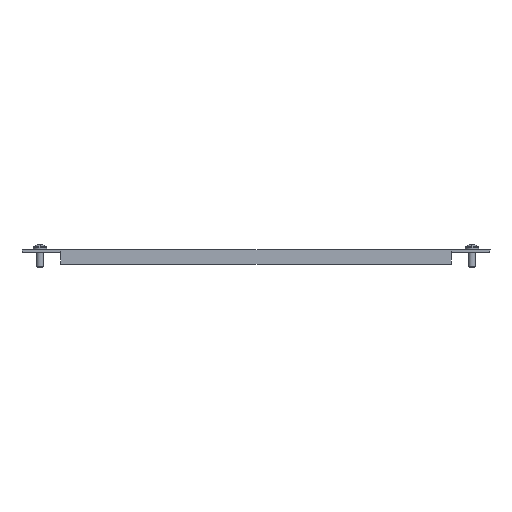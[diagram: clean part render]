
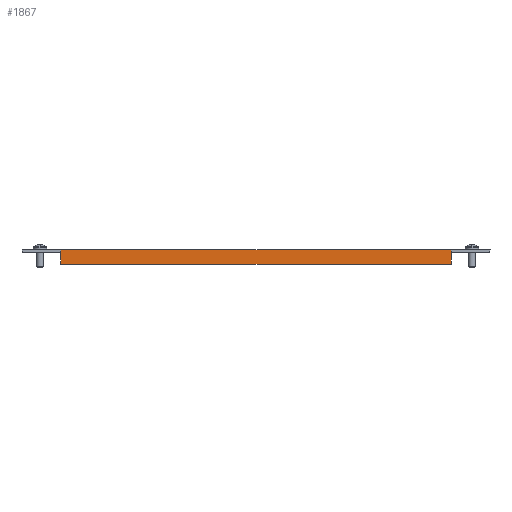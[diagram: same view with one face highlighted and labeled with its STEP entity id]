
A CAD part, front view. The second image highlights one B-rep face of the part: STEP entity #1867.
In plain terms, the highlighted planar face has unit normal (0, -1, 0).
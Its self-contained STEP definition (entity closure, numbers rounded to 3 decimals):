
#74 = EDGE_CURVE ( 'NONE', #1968, #316, #1714, .T. ) ;
#107 = DIRECTION ( 'NONE',  ( 0., 0., 1. ) ) ;
#146 = CARTESIAN_POINT ( 'NONE',  ( -135.5, -149., -2.4 ) ) ;
#169 = DIRECTION ( 'NONE',  ( 0., 0., 1. ) ) ;
#255 = CARTESIAN_POINT ( 'NONE',  ( -135.5, -149., -10. ) ) ;
#260 = DIRECTION ( 'NONE',  ( 0., -1., 0. ) ) ;
#280 = VERTEX_POINT ( 'NONE', #3361 ) ;
#316 = VERTEX_POINT ( 'NONE', #1595 ) ;
#361 = DIRECTION ( 'NONE',  ( 0., 0., 1. ) ) ;
#377 = CARTESIAN_POINT ( 'NONE',  ( -135.5, -149., -1.8 ) ) ;
#386 = VERTEX_POINT ( 'NONE', #255 ) ;
#416 = DIRECTION ( 'NONE',  ( -1., 0., 0. ) ) ;
#499 = VECTOR ( 'NONE', #2122, 1000. ) ;
#557 = VECTOR ( 'NONE', #107, 1000. ) ;
#689 = CARTESIAN_POINT ( 'NONE',  ( -135.5, -149., 0. ) ) ;
#748 = LINE ( 'NONE', #1035, #2378 ) ;
#765 = EDGE_LOOP ( 'NONE', ( #1164, #1483, #1552, #3080, #2648, #2255 ) ) ;
#825 = CARTESIAN_POINT ( 'NONE',  ( 0., -149., 0. ) ) ;
#830 = CARTESIAN_POINT ( 'NONE',  ( 135.5, -149., -2.4 ) ) ;
#1031 = VECTOR ( 'NONE', #1189, 1000. ) ;
#1035 = CARTESIAN_POINT ( 'NONE',  ( 0., -149., 0. ) ) ;
#1049 = CARTESIAN_POINT ( 'NONE',  ( 135.5, -149., -10. ) ) ;
#1102 = CARTESIAN_POINT ( 'NONE',  ( 135.5, -149., -2.4 ) ) ;
#1164 = ORIENTED_EDGE ( 'NONE', *, *, #1641, .F. ) ;
#1189 = DIRECTION ( 'NONE',  ( -1., 0., 0. ) ) ;
#1297 = LINE ( 'NONE', #1049, #499 ) ;
#1459 = LINE ( 'NONE', #2325, #1031 ) ;
#1483 = ORIENTED_EDGE ( 'NONE', *, *, #74, .T. ) ;
#1513 = EDGE_CURVE ( 'NONE', #386, #2883, #2001, .T. ) ;
#1552 = ORIENTED_EDGE ( 'NONE', *, *, #1775, .T. ) ;
#1595 = CARTESIAN_POINT ( 'NONE',  ( 135.5, -149., 0. ) ) ;
#1641 = EDGE_CURVE ( 'NONE', #1968, #2536, #1297, .T. ) ;
#1689 = FACE_OUTER_BOUND ( 'NONE', #765, .T. ) ;
#1714 = LINE ( 'NONE', #830, #3023 ) ;
#1775 = EDGE_CURVE ( 'NONE', #316, #280, #748, .T. ) ;
#1867 = ADVANCED_FACE ( 'NONE', ( #1689 ), #2807, .T. ) ;
#1953 = AXIS2_PLACEMENT_3D ( 'NONE', #825, #260, #2539 ) ;
#1968 = VERTEX_POINT ( 'NONE', #1102 ) ;
#2001 = LINE ( 'NONE', #377, #557 ) ;
#2122 = DIRECTION ( 'NONE',  ( 0., 0., -1. ) ) ;
#2255 = ORIENTED_EDGE ( 'NONE', *, *, #2741, .F. ) ;
#2310 = EDGE_CURVE ( 'NONE', #2883, #280, #2684, .T. ) ;
#2321 = CARTESIAN_POINT ( 'NONE',  ( 135.5, -149., -10. ) ) ;
#2325 = CARTESIAN_POINT ( 'NONE',  ( -135.5, -149., -10. ) ) ;
#2378 = VECTOR ( 'NONE', #416, 1000. ) ;
#2536 = VERTEX_POINT ( 'NONE', #2321 ) ;
#2539 = DIRECTION ( 'NONE',  ( 0., 0., -1. ) ) ;
#2648 = ORIENTED_EDGE ( 'NONE', *, *, #1513, .F. ) ;
#2684 = LINE ( 'NONE', #689, #3340 ) ;
#2741 = EDGE_CURVE ( 'NONE', #2536, #386, #1459, .T. ) ;
#2807 = PLANE ( 'NONE',  #1953 ) ;
#2883 = VERTEX_POINT ( 'NONE', #146 ) ;
#3023 = VECTOR ( 'NONE', #361, 1000. ) ;
#3080 = ORIENTED_EDGE ( 'NONE', *, *, #2310, .F. ) ;
#3340 = VECTOR ( 'NONE', #169, 1000. ) ;
#3361 = CARTESIAN_POINT ( 'NONE',  ( -135.5, -149., 0. ) ) ;
